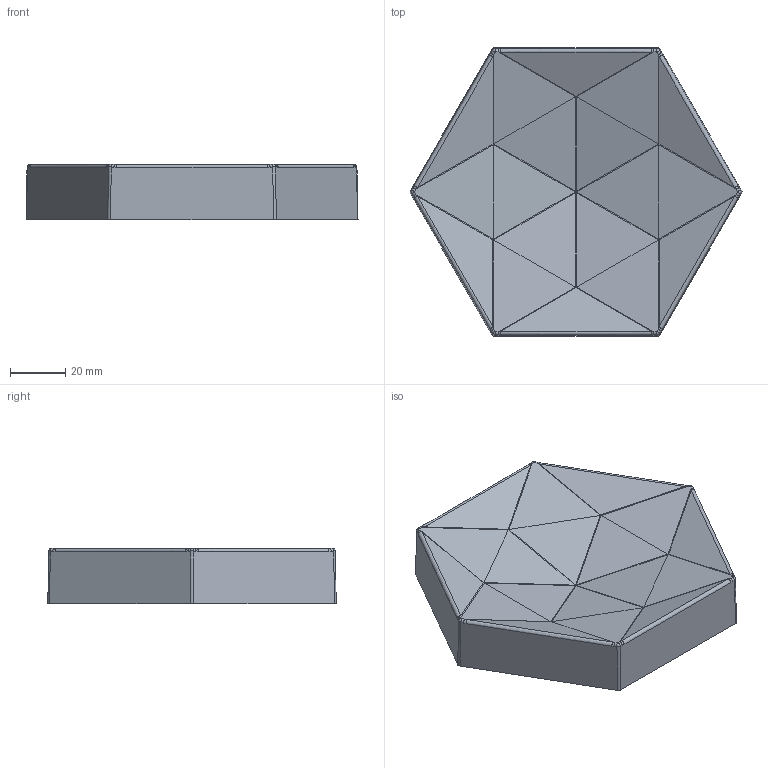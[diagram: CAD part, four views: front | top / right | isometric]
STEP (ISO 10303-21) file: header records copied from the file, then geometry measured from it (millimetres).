
FILE_DESCRIPTION(/* description */ (''),/* implementation_level */ '2;1');
FILE_NAME(/* name */ 'Geomo 011',/* time_stamp */ '2023-04-07T08:08:54+02:00',/* author */ (''),/* organization */ (''),/* preprocessor_version */ 'ST-DEVELOPER v16.5',/* originating_system */ '',/* authorisation */ '');
FILE_SCHEMA (('AUTOMOTIVE_DESIGN'));
Length unit declared in the file: millimetre
Products named in the file (1): Document
Bounding box: 120.45 x 104.64 x 20.16 mm (x, y, z)
Volume: 138313.3 mm3; surface area: 26331.3 mm2
Topology: 1 solids, 1 shells, 103 faces, 228 edges, 127 vertices
Faces by surface type: bspline 78, plane 25
Entity records: 3777 total; most frequent: CARTESIAN_POINT 2380, ORIENTED_EDGE 456, EDGE_CURVE 228, B_SPLINE_CURVE_WITH_KNOTS 162, VERTEX_POINT 127, ADVANCED_FACE 103, FACE_OUTER_BOUND 103, EDGE_LOOP 103
